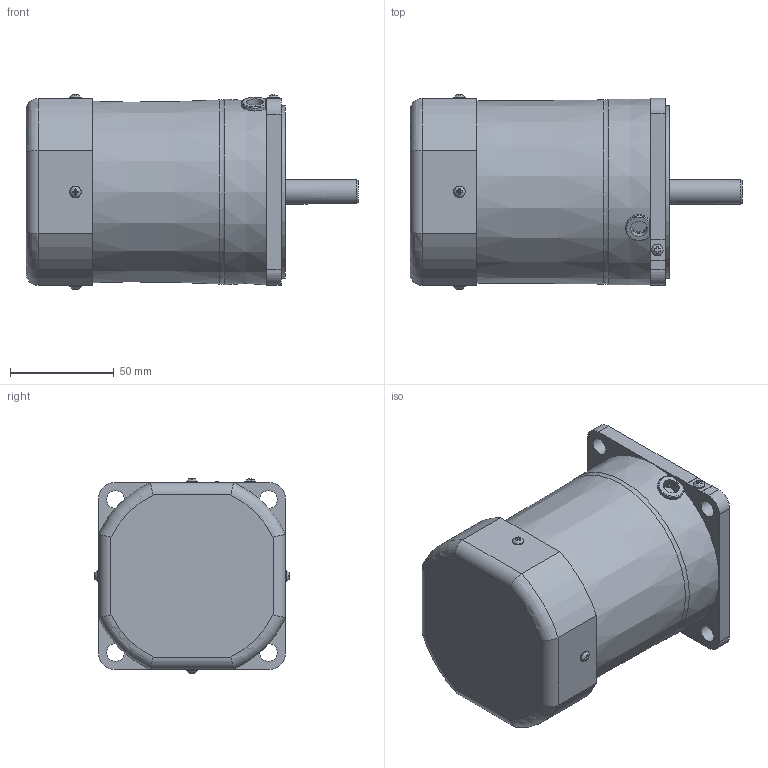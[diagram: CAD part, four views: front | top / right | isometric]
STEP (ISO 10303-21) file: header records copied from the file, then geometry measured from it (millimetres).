
FILE_DESCRIPTION(/* description */ (''),/* implementation_level */ '2;1');
FILE_NAME(/* name */ 'Y:\제품연구개발\3. 도면\3. 고객배포용\3D_홈페이지용\01-1 Standard AC SG Series\0704) 미주향 SG 도면\3D MOTOR\REVERSIBLE\SG9R60K\SG9R60K.stp',/* time_stamp */ '2023-11-23T10:38:19+09:00',/* author */ ('shyi1037'),/* organization */ (''),/* preprocessor_version */ 'ST-DEVELOPER v18.1',/* originating_system */ 'Autodesk Inventor 2022',/* authorisation */ '');
FILE_SCHEMA (('AUTOMOTIVE_DESIGN { 1 0 10303 214 3 1 1 }'));
Length unit declared in the file: millimetre
Products named in the file (5): S9I60G_Ciam; S9I60GㅁCE; 6_CORD BUSH; FAN COVER; S9_60_HOUSING A
Assembly tree (4 placements, depth 2):
  S9I60G_Ciam
    S9I60GㅁCE
    6_CORD BUSH
    FAN COVER
    S9_60_HOUSING A
Bounding box: 159.8 x 93.89 x 93.89 mm (x, y, z)
Volume: 875670.9 mm3; surface area: 86176 mm2
Topology: 4 solids, 8 shells, 212 faces, 537 edges, 354 vertices
Faces by surface type: plane 133, cylinder 50, torus 14, cone 10, bspline 5
Full cylindrical faces by diameter (mm): 3 x8, 3.5 x4, 5.6 x5, 8 x1, 8.5 x4, 10 x1, 12 x1, 40 x1, 83 x1, 86 x1
Entity records: 7206 total; most frequent: CARTESIAN_POINT 1925, ORIENTED_EDGE 1074, DIRECTION 1028, EDGE_CURVE 537, AXIS2_PLACEMENT_3D 370, VERTEX_POINT 354, LINE 288, VECTOR 288
